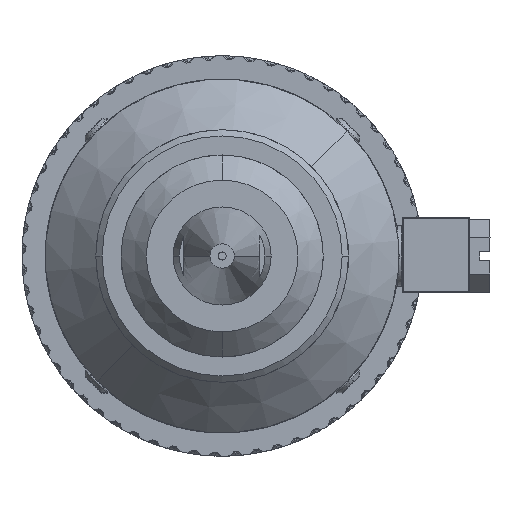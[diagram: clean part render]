
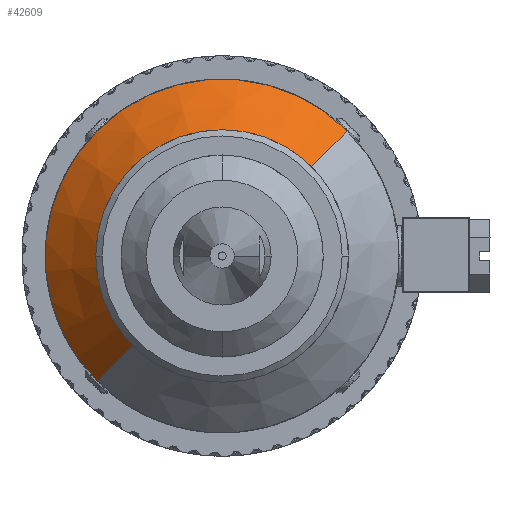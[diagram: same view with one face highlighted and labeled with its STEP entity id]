
A CAD part, front view. The second image highlights one B-rep face of the part: STEP entity #42609.
In plain terms, the highlighted conical face has half-angle 45 degrees and reference radius 15.875 mm.
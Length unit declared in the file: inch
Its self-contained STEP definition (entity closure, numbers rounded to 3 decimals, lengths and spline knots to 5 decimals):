
#7 = CIRCLE ( 'NONE', #17093, 0.875 ) ;
#334 = CONICAL_SURFACE ( 'NONE', #47991, 0.625, 0.785 ) ;
#367 = DIRECTION ( 'NONE',  ( 0., 1., 0. ) ) ;
#1470 = LINE ( 'NONE', #50008, #61820 ) ;
#1516 = AXIS2_PLACEMENT_3D ( 'NONE', #47455, #13201, #30047 ) ;
#6237 = CARTESIAN_POINT ( 'NONE',  ( 0.02399, 0.16595, -0.00073 ) ) ;
#7432 = CIRCLE ( 'NONE', #1516, 0.625 ) ;
#13201 = DIRECTION ( 'NONE',  ( 0., -1., 0. ) ) ;
#13668 = ORIENTED_EDGE ( 'NONE', *, *, #69531, .T. ) ;
#16546 = VERTEX_POINT ( 'NONE', #36321 ) ;
#17093 = AXIS2_PLACEMENT_3D ( 'NONE', #6237, #75791, #70644 ) ;
#22785 = EDGE_CURVE ( 'NONE', #16546, #25420, #7, .T. ) ;
#25420 = VERTEX_POINT ( 'NONE', #33944 ) ;
#26290 = CARTESIAN_POINT ( 'NONE',  ( -0.41795, -0.08405, -0.44267 ) ) ;
#29977 = CARTESIAN_POINT ( 'NONE',  ( 0.02399, -0.08405, -0.00073 ) ) ;
#30047 = DIRECTION ( 'NONE',  ( 0.707, 0., 0.707 ) ) ;
#33039 = ORIENTED_EDGE ( 'NONE', *, *, #61288, .F. ) ;
#33944 = CARTESIAN_POINT ( 'NONE',  ( -0.59472, 0.16595, -0.61945 ) ) ;
#36321 = CARTESIAN_POINT ( 'NONE',  ( 0.64271, 0.16595, 0.61799 ) ) ;
#38032 = DIRECTION ( 'NONE',  ( -0.5, 0.707, -0.5 ) ) ;
#39199 = DIRECTION ( 'NONE',  ( 0.5, 0.707, 0.5 ) ) ;
#39482 = CARTESIAN_POINT ( 'NONE',  ( 0.46594, -0.08405, 0.44121 ) ) ;
#39532 = VECTOR ( 'NONE', #38032, 39.37008 ) ;
#42609 = ADVANCED_FACE ( 'NONE', ( #53385 ), #334, .T. ) ;
#43527 = VERTEX_POINT ( 'NONE', #70744 ) ;
#47455 = CARTESIAN_POINT ( 'NONE',  ( 0.02399, -0.08405, -0.00073 ) ) ;
#47991 = AXIS2_PLACEMENT_3D ( 'NONE', #29977, #367, #64580 ) ;
#48533 = VERTEX_POINT ( 'NONE', #39482 ) ;
#50008 = CARTESIAN_POINT ( 'NONE',  ( 0.46594, -0.08405, 0.44121 ) ) ;
#50746 = ORIENTED_EDGE ( 'NONE', *, *, #22785, .T. ) ;
#53385 = FACE_OUTER_BOUND ( 'NONE', #56867, .T. ) ;
#55790 = EDGE_CURVE ( 'NONE', #48533, #43527, #7432, .T. ) ;
#56867 = EDGE_LOOP ( 'NONE', ( #57270, #13668, #50746, #33039 ) ) ;
#57270 = ORIENTED_EDGE ( 'NONE', *, *, #55790, .F. ) ;
#60622 = LINE ( 'NONE', #26290, #39532 ) ;
#61288 = EDGE_CURVE ( 'NONE', #43527, #25420, #60622, .T. ) ;
#61820 = VECTOR ( 'NONE', #39199, 39.37008 ) ;
#64580 = DIRECTION ( 'NONE',  ( -0.707, 0., -0.707 ) ) ;
#69531 = EDGE_CURVE ( 'NONE', #48533, #16546, #1470, .T. ) ;
#70644 = DIRECTION ( 'NONE',  ( 0.707, 0., 0.707 ) ) ;
#70744 = CARTESIAN_POINT ( 'NONE',  ( -0.41795, -0.08405, -0.44267 ) ) ;
#75791 = DIRECTION ( 'NONE',  ( 0., -1., 0. ) ) ;
